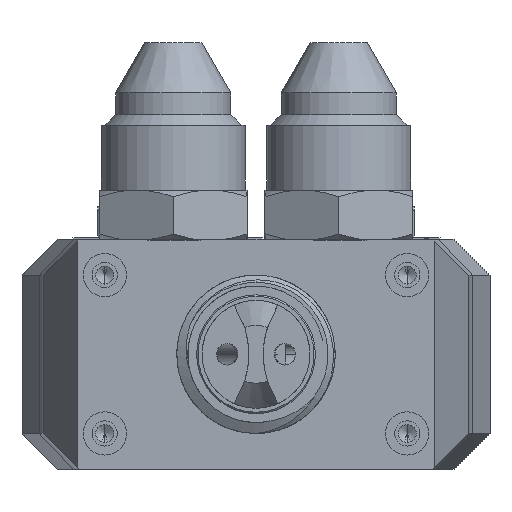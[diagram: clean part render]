
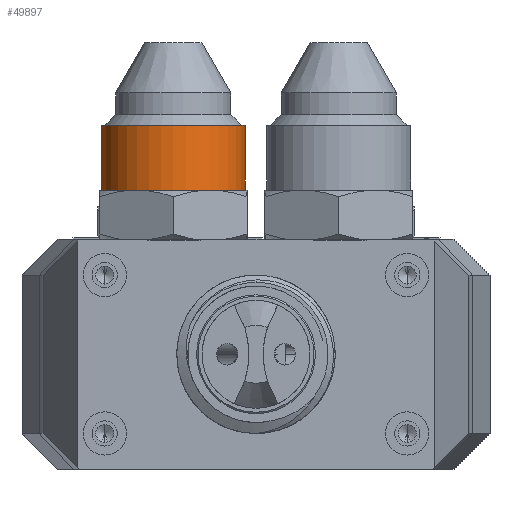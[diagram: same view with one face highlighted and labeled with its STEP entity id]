
A CAD part, front view. The second image highlights one B-rep face of the part: STEP entity #49897.
In plain terms, the highlighted cylindrical face has radius 10 mm (diameter 20 mm), a partial arc.
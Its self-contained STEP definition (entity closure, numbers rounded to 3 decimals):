
#384 = ORIENTED_EDGE ( 'NONE', *, *, #34551, .T. ) ;
#2539 = AXIS2_PLACEMENT_3D ( 'NONE', #36192, #24526, #15364 ) ;
#3586 = CYLINDRICAL_SURFACE ( 'NONE', #22844, 10. ) ;
#4689 = CARTESIAN_POINT ( 'NONE',  ( -49.905, -128.319, 1021.303 ) ) ;
#7020 = VERTEX_POINT ( 'NONE', #49555 ) ;
#8585 = CIRCLE ( 'NONE', #2539, 10. ) ;
#10497 = CARTESIAN_POINT ( 'NONE',  ( -39.905, -128.319, 1021.303 ) ) ;
#12173 = EDGE_CURVE ( 'NONE', #40694, #45370, #20807, .T. ) ;
#12518 = DIRECTION ( 'NONE',  ( 1., 0., 0. ) ) ;
#13656 = CARTESIAN_POINT ( 'NONE',  ( -49.905, -128.319, 1030.303 ) ) ;
#14937 = VECTOR ( 'NONE', #22299, 1000. ) ;
#15364 = DIRECTION ( 'NONE',  ( 1., 0., 0. ) ) ;
#20807 = CIRCLE ( 'NONE', #35514, 10. ) ;
#22299 = DIRECTION ( 'NONE',  ( 0., 0., 1. ) ) ;
#22844 = AXIS2_PLACEMENT_3D ( 'NONE', #49559, #33345, #12518 ) ;
#23180 = DIRECTION ( 'NONE',  ( 1., 0., 0. ) ) ;
#24526 = DIRECTION ( 'NONE',  ( 0., 0., -1. ) ) ;
#24829 = ORIENTED_EDGE ( 'NONE', *, *, #50661, .T. ) ;
#25197 = EDGE_LOOP ( 'NONE', ( #36241, #32231, #24829, #384 ) ) ;
#25515 = VECTOR ( 'NONE', #49709, 1000. ) ;
#27256 = DIRECTION ( 'NONE',  ( 0., 0., 1. ) ) ;
#27306 = LINE ( 'NONE', #52715, #25515 ) ;
#31229 = LINE ( 'NONE', #35286, #14937 ) ;
#32231 = ORIENTED_EDGE ( 'NONE', *, *, #12173, .T. ) ;
#33345 = DIRECTION ( 'NONE',  ( 0., 0., 1. ) ) ;
#34551 = EDGE_CURVE ( 'NONE', #7020, #48541, #8585, .T. ) ;
#35286 = CARTESIAN_POINT ( 'NONE',  ( -49.905, -128.319, 1052.575 ) ) ;
#35514 = AXIS2_PLACEMENT_3D ( 'NONE', #10497, #27256, #23180 ) ;
#36192 = CARTESIAN_POINT ( 'NONE',  ( -39.905, -128.319, 1030.303 ) ) ;
#36241 = ORIENTED_EDGE ( 'NONE', *, *, #36421, .F. ) ;
#36421 = EDGE_CURVE ( 'NONE', #40694, #48541, #31229, .T. ) ;
#40694 = VERTEX_POINT ( 'NONE', #4689 ) ;
#45370 = VERTEX_POINT ( 'NONE', #48481 ) ;
#45504 = FACE_OUTER_BOUND ( 'NONE', #25197, .T. ) ;
#48481 = CARTESIAN_POINT ( 'NONE',  ( -29.905, -128.319, 1021.303 ) ) ;
#48541 = VERTEX_POINT ( 'NONE', #13656 ) ;
#49555 = CARTESIAN_POINT ( 'NONE',  ( -29.905, -128.319, 1030.303 ) ) ;
#49559 = CARTESIAN_POINT ( 'NONE',  ( -39.905, -128.319, 1052.575 ) ) ;
#49709 = DIRECTION ( 'NONE',  ( 0., 0., 1. ) ) ;
#49897 = ADVANCED_FACE ( 'NONE', ( #45504 ), #3586, .T. ) ;
#50661 = EDGE_CURVE ( 'NONE', #45370, #7020, #27306, .T. ) ;
#52715 = CARTESIAN_POINT ( 'NONE',  ( -29.905, -128.319, 1052.575 ) ) ;
